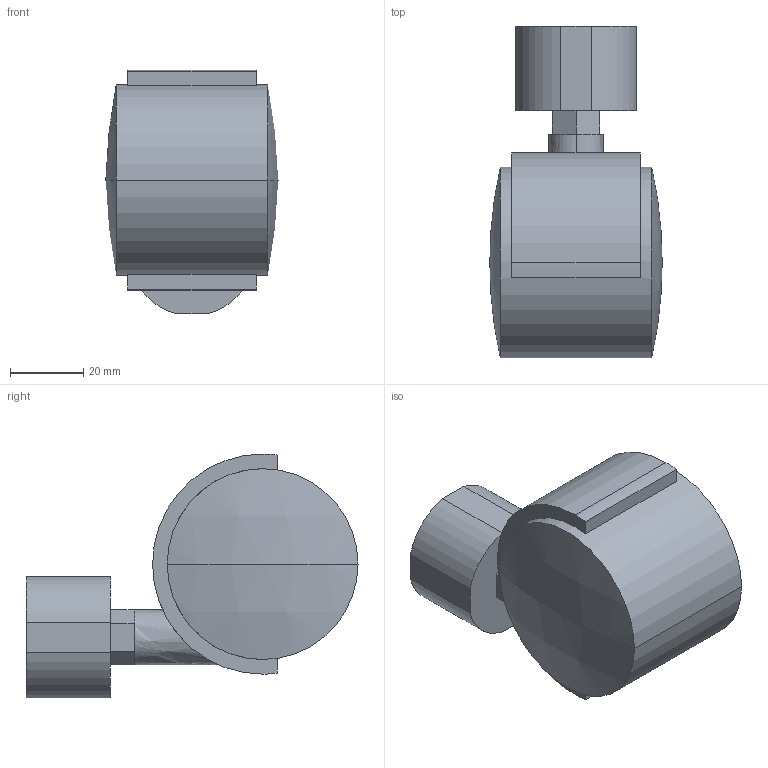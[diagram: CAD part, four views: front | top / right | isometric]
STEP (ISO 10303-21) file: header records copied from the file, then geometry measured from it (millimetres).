
FILE_DESCRIPTION (( 'STEP AP214' ), '1' );
FILE_NAME ('SDN-50.step', '2024-02-15T04:41:09', ( 'catia' ), ( 'HP Inc.' ), 'SwSTEP 2.0', 'SolidWorks 2021', '' );
FILE_SCHEMA (( 'AUTOMOTIVE_DESIGN' ));
Length unit declared in the file: millimetre
Products named in the file (1): SDN-50
Bounding box: 47 x 90.5 x 66.5 mm (x, y, z)
Volume: 123140 mm3; surface area: 18503.9 mm2
Topology: 1 solids, 1 shells, 44 faces, 105 edges, 66 vertices
Faces by surface type: plane 27, cylinder 11, sphere 4, bspline 2
Entity records: 1487 total; most frequent: CARTESIAN_POINT 440, ORIENTED_EDGE 210, DIRECTION 207, EDGE_CURVE 105, AXIS2_PLACEMENT_3D 73, VERTEX_POINT 66, VECTOR 61, LINE 61
